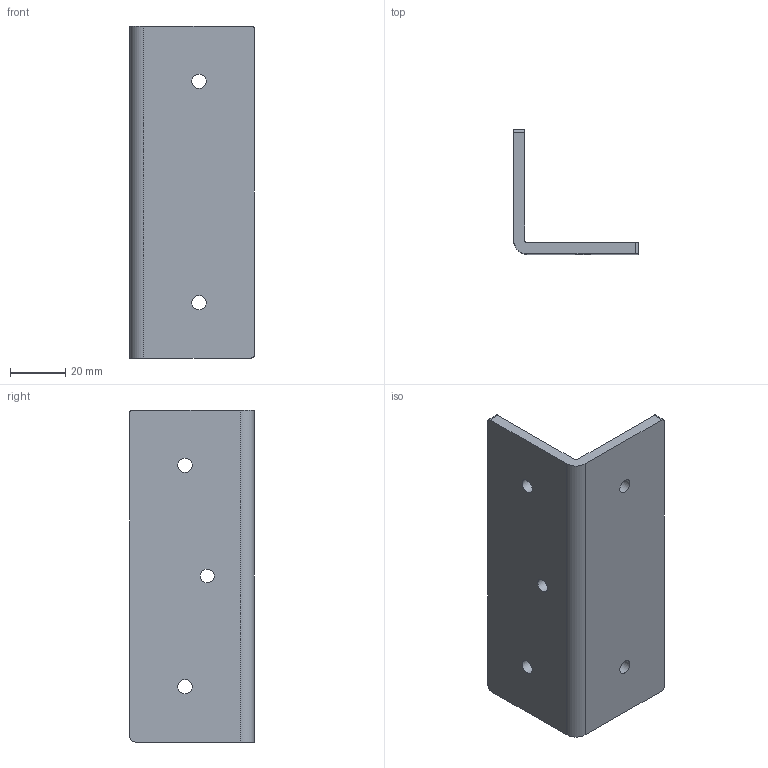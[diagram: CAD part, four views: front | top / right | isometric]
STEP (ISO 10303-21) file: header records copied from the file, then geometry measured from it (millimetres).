
FILE_DESCRIPTION(('HOOPS Exchange Step'),'2;1');
FILE_NAME('/private/var/mobile/Containers/Data/Application/E4481369-A8C6-45C6-A958-B1853E49479D/tmp/export/temp_export','2021-04-12T21:37:57+00:00',('mobile'),('Shapr3D Limited'),'HOOPS Exchange 2020.2','Shapr3D','Authorized');
FILE_SCHEMA( ('AP203_CONFIGURATION_CONTROLLED_3D_DESIGN_OF_MECHANICAL_PARTS_AND_ASSEMBLIES_MIM_LF') );
Length unit declared in the file: millimetre
Products named in the file (3): 0; /private/var/mobile/Containers/Data/Application/E4481369-A8C6-45C6-A958-B1853E49479D/tmp/B1603D35-A2B4-410E-8D89-A6CAEEA7F577.tmp
Assembly tree (2 placements, depth 3):
  /private/var/mobile/Containers/Data/Application/E4481369-A8C6-45C6-A958-B1853E49479D/tmp/B1603D35-A2B4-410E-8D89-A6CAEEA7F577.tmp
    0
      0
Bounding box: 45 x 45 x 120 mm (x, y, z)
Volume: 40237.6 mm3; surface area: 22072.1 mm2
Topology: 1 solids, 1 shells, 19 faces, 54 edges, 37 vertices
Faces by surface type: cylinder 11, plane 8
Full cylindrical faces by diameter (mm): 5 x1, 5.2 x4
Entity records: 727 total; most frequent: DIRECTION 127, CARTESIAN_POINT 115, ORIENTED_EDGE 108, EDGE_CURVE 54, AXIS2_PLACEMENT_3D 49, VERTEX_POINT 37, EDGE_LOOP 29, FACE_BOUND 29
